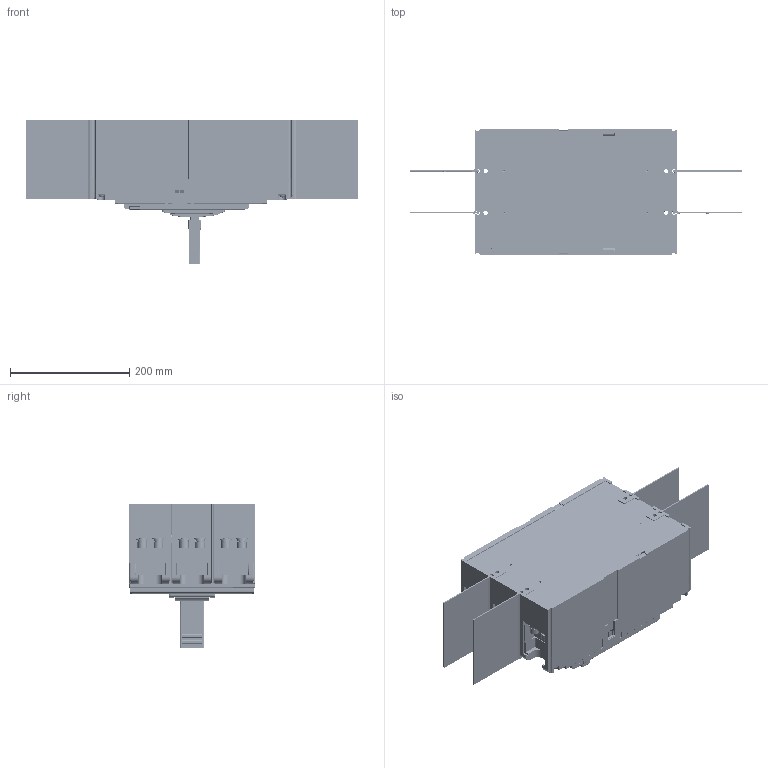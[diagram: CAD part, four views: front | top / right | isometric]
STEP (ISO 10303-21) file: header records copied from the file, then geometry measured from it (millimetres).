
FILE_DESCRIPTION((''),'2;1');
FILE_NAME('2TZD_256_6063_ASM','2022-03-22T',('panliyun'),(''),'PRO/ENGINEER BY PARAMETRIC TECHNOLOGY CORPORATION, 2017170','PRO/ENGINEER BY PARAMETRIC TECHNOLOGY CORPORATION, 2017170','');
FILE_SCHEMA(('CONFIG_CONTROL_DESIGN'));
Products named in the file (154): 8TZD_024_6222; M10_GB41_24; M5_15QIANJIAN_17; ASM0048_ASM_17; PRT0869_16; PRT0870_16; ASM0050_ASM_16_ASM; ASM0049_ASM_17_ASM; PRT0871_16; ASM0047_ASM_16_ASM; ASM0046_ASM_16_ASM; ASM0045_ASM_16_ASM; ASM0044_ASM_16_ASM; ASM0043_ASM_16_ASM; ASM0042_ASM_16_ASM; PRT0872_16; PRT0873_16; 5STM-551-3801_ASM_17_ASM; 61-5STM-551-3801_ASM_16_ASM; 63-8STM-745-3801_17; M5X16_GB819_25; M10X45_GB6191_19; D10_GB97_1_18; D10_GB93_19; PRT2504_1_1_16; PRT2505_1_1_16; PRT2506_1_1_16; ASM0116_ASM_1_ASM_1_ASM_16_ASM; 72-5STM-742-3801_ASM_16_ASM; 26-8STM_750_3802_PRT_1_1_16; 61-8STM_751_3801_PRT_17; 111-8STM-042-3801_18; 113-8STM-043-3803_16; 114-8STM-043-3803_17; PRT0880_1_16; PRT0881_1_16; PRT0883_1_16; PRT0885_1_16; PRT0886_1_16; ASM0052_ASM_1_ASM_21_ASM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
Assembly tree (374 placements, depth 13):
  2TZD_256_6063_ASM
    2TZD_256_6063_01_ASM
      8TZD_024_6222
      M10_GB41_24  x15
      M5_15QIANJIAN_17  x10
      61-5STM-551-3801_ASM_16_ASM  x3
        5STM-551-3801_ASM_17_ASM
          ASM0042_ASM_16_ASM
            ASM0043_ASM_16_ASM
              ASM0044_ASM_16_ASM
                ASM0045_ASM_16_ASM
                  ASM0046_ASM_16_ASM
          PRT0872_16
          PRT0873_16
      63-8STM-745-3801_17  x3
      M5X16_GB819_25  x6
      M10X45_GB6191_19  x12
      D10_GB97_1_18  x12
      D10_GB93_19  x12
      72-5STM-742-3801_ASM_16_ASM  x3
        ASM0116_ASM_1_ASM_1_ASM_16_ASM
          PRT2504_1_1_16  x2
          PRT2505_1_1_16
          PRT2506_1_1_16  x14
      26-8STM_750_3802_PRT_1_1_16  x3
      61-8STM_751_3801_PRT_17  x3
      111-8STM-042-3801_18  x2
      113-8STM-043-3803_16
      114-8STM-043-3803_17
      154-5STM-257-3801_ASM_20_ASM
        ASM0052_ASM_1_ASM_21_ASM
          PRT0880_1_16
          PRT0881_1_16
          PRT0883_1_16
          PRT0885_1_16
          PRT0886_1_16
        153-8STM-257-3801_18
        158-8STM-209-3803_17
        157-8STM-257-3804_17
      139-85STM-104-3802_ASM_16_ASM
        PRT0003_1_1_16  x2
        PRT0004_1_1_16
        ASM0004_ASM_1_ASM_1_ASM_16_ASM
          PRT0038_1_16
          BREP_WITH_VOIDS_41773_1_1_1_1_1
        PRT0005_1_1_16  x3
      161-8STM-208-3802_17
      112-8STM-206-3804_17  x2
      229-8STM-933-3801_16  x3
      134-8STM-551-3805_18  x18
      133-8STM-551-3806_18  x3
      135-8STM-550-3807_16  x21
      152-8STM-288-3804_18  x21
      143-8STM-156-3801_16  x3
      137-8STM-585-3802_17  x3
      8STM-550-3820_______6MM__16  x3
      8STM-550-3818_____10MM__16  x3
      82-8STM-612-3801_18  x6
      84-8STM-043-3801_17  x3
      82-8STM-933-3801_18  x3
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Bounding box: 557.06 x 210 x 242.81 mm (x, y, z)
Volume: 4769578.4 mm3; surface area: 2432603.3 mm2
Topology: 391 solids, 509 shells, 30964 faces, 81286 edges, 53115 vertices
Faces by surface type: plane 23346, cylinder 5331, cone 713, bspline 694, torus 422, sphere 412, extrusion 46
Entity records: 566933 total; most frequent: CARTESIAN_POINT 157053, ORIENTED_EDGE 85170, DIRECTION 82584, EDGE_CURVE 42659, VECTOR 33278, LINE 33232, VERTEX_POINT 27956, AXIS2_PLACEMENT_3D 24653
